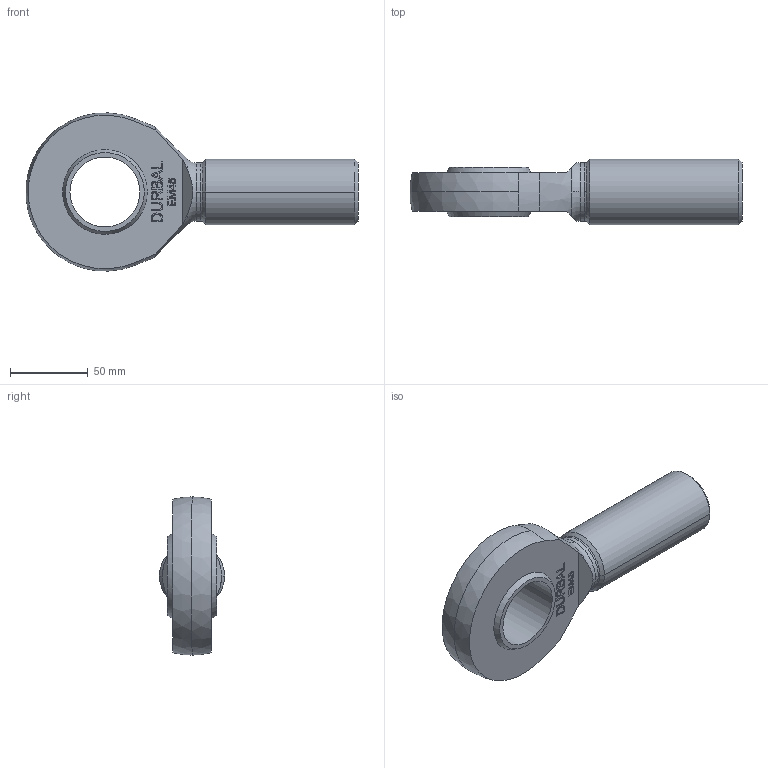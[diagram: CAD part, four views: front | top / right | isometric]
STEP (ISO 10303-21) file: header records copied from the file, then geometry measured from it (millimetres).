
FILE_DESCRIPTION (( 'STEP AP214' ), '1' );
FILE_NAME ('HL-3-003 20t.STEP', '2025-06-18T15:09:20', ( '' ), ( '' ), 'SwSTEP 2.0', 'SolidWorks 2023', '' );
FILE_SCHEMA (( 'AUTOMOTIVE_DESIGN' ));
Length unit declared in the file: millimetre
Products named in the file (1): HL-3-003 20t
Bounding box: 213.82 x 42 x 101.9 mm (x, y, z)
Volume: 322268.2 mm3; surface area: 41272.9 mm2
Topology: 1 solids, 1 shells, 193 faces, 512 edges, 339 vertices
Faces by surface type: plane 124, bspline 43, cylinder 10, cone 8, sphere 4, torus 4
Entity records: 6289 total; most frequent: CARTESIAN_POINT 1764, ORIENTED_EDGE 1016, DIRECTION 762, EDGE_CURVE 508, LINE 356, VECTOR 356, VERTEX_POINT 337, EDGE_LOOP 215
